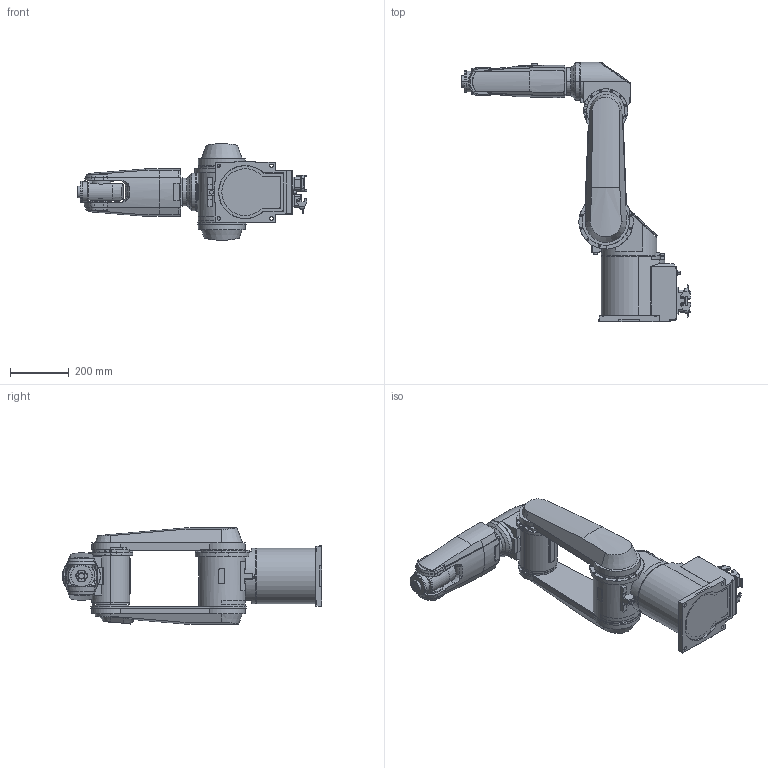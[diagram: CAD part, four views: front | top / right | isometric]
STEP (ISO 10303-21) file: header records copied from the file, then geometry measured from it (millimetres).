
FILE_DESCRIPTION((''),'2;1');
FILE_NAME('ASM0001_ASM','2024-06-28T10:41:56',('15575'),(''),'CREO PARAMETRIC BY PTC INC, 2020454','CREO PARAMETRIC BY PTC INC, 2020454','');
FILE_SCHEMA(('AUTOMOTIVE_DESIGN { 1 0 10303 214 1 1 1 1 }'));
Products named in the file (7): TV800_BASE_ASM; TV800_BASE_TURN2_ASM; TV800_1ST_ARM_2_ASM; TV800_2ND_ARM_1_ASM; TV800_2ND_ARM_2_; TV800_3RD_ARM_ASM; ASM0001_ASM
Assembly tree (6 placements, depth 2):
  ASM0001_ASM
    TV800_BASE_ASM
    TV800_BASE_TURN2_ASM
    TV800_1ST_ARM_2_ASM
    TV800_2ND_ARM_1_ASM
    TV800_2ND_ARM_2_
    TV800_3RD_ARM_ASM
Bounding box: 785.4 x 886.49 x 330 mm (x, y, z)
Volume: 29795819.2 mm3; surface area: 1827726.3 mm2
Topology: 12 solids, 46 shells, 2214 faces, 5701 edges, 3709 vertices
Faces by surface type: plane 1280, cylinder 697, cone 124, torus 58, bspline 30, sphere 16, extrusion 9
Entity records: 75712 total; most frequent: CARTESIAN_POINT 14469, DIRECTION 11452, ORIENTED_EDGE 11334, EDGE_CURVE 5667, AXIS2_PLACEMENT_3D 3902, VERTEX_POINT 3709, VECTOR 3648, LINE 3639
